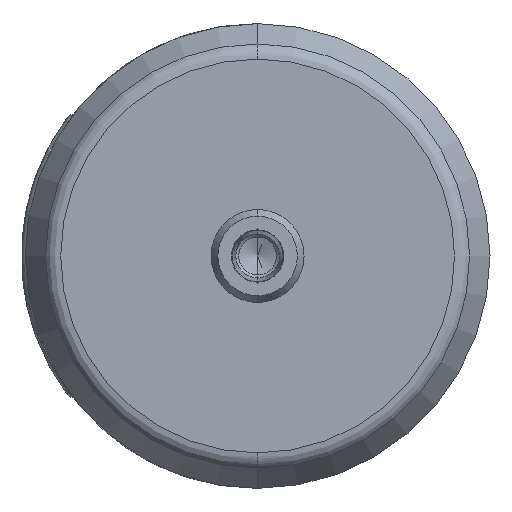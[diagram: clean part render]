
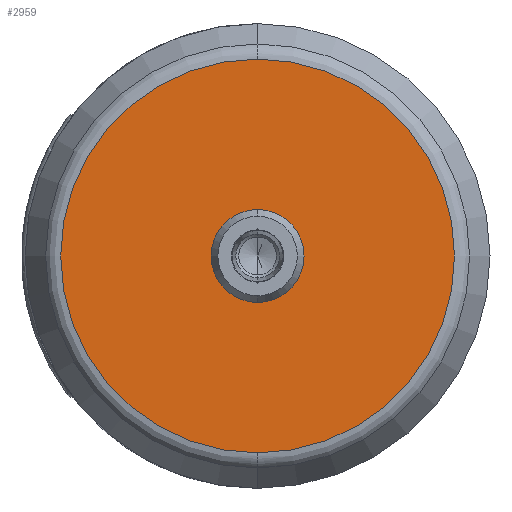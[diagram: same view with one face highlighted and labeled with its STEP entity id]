
A CAD part, front view. The second image highlights one B-rep face of the part: STEP entity #2959.
In plain terms, the highlighted planar face has unit normal (0, -1, 0).
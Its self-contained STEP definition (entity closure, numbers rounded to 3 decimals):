
#7 = VERTEX_POINT ( 'NONE', #945 ) ;
#945 = CARTESIAN_POINT ( 'NONE',  ( 0., 0., -33.892 ) ) ;
#1171 = CIRCLE ( 'NONE', #4175, 7.75 ) ;
#1381 = VERTEX_POINT ( 'NONE', #2946 ) ;
#1853 = EDGE_LOOP ( 'NONE', ( #5781, #6446 ) ) ;
#1929 = DIRECTION ( 'NONE',  ( 0., -1., 0. ) ) ;
#1990 = DIRECTION ( 'NONE',  ( 0., 0., 1. ) ) ;
#1994 = PLANE ( 'NONE',  #5055 ) ;
#2006 = AXIS2_PLACEMENT_3D ( 'NONE', #5436, #2692, #5411 ) ;
#2089 = CARTESIAN_POINT ( 'NONE',  ( 0., 0., 0. ) ) ;
#2158 = AXIS2_PLACEMENT_3D ( 'NONE', #3835, #4415, #4394 ) ;
#2477 = DIRECTION ( 'NONE',  ( 0., 1., 0. ) ) ;
#2541 = AXIS2_PLACEMENT_3D ( 'NONE', #5193, #2477, #1990 ) ;
#2561 = CIRCLE ( 'NONE', #2158, 33.892 ) ;
#2692 = DIRECTION ( 'NONE',  ( 0., 1., 0. ) ) ;
#2897 = VERTEX_POINT ( 'NONE', #5584 ) ;
#2946 = CARTESIAN_POINT ( 'NONE',  ( 0., 0., 7.75 ) ) ;
#2959 = ADVANCED_FACE ( 'NONE', ( #4108, #4612 ), #1994, .T. ) ;
#3052 = EDGE_CURVE ( 'NONE', #1381, #5129, #1171, .T. ) ;
#3263 = ORIENTED_EDGE ( 'NONE', *, *, #3594, .T. ) ;
#3594 = EDGE_CURVE ( 'NONE', #5129, #1381, #4934, .T. ) ;
#3835 = CARTESIAN_POINT ( 'NONE',  ( 0., 0., 0. ) ) ;
#4108 = FACE_BOUND ( 'NONE', #6350, .T. ) ;
#4172 = CIRCLE ( 'NONE', #2541, 33.892 ) ;
#4175 = AXIS2_PLACEMENT_3D ( 'NONE', #2089, #6380, #4791 ) ;
#4242 = EDGE_CURVE ( 'NONE', #7, #2897, #4172, .T. ) ;
#4390 = ORIENTED_EDGE ( 'NONE', *, *, #3052, .T. ) ;
#4394 = DIRECTION ( 'NONE',  ( 0., 0., 1. ) ) ;
#4415 = DIRECTION ( 'NONE',  ( 0., 1., 0. ) ) ;
#4612 = FACE_OUTER_BOUND ( 'NONE', #1853, .T. ) ;
#4791 = DIRECTION ( 'NONE',  ( 0., 0., 1. ) ) ;
#4934 = CIRCLE ( 'NONE', #2006, 7.75 ) ;
#5055 = AXIS2_PLACEMENT_3D ( 'NONE', #6254, #1929, #6282 ) ;
#5129 = VERTEX_POINT ( 'NONE', #5354 ) ;
#5173 = EDGE_CURVE ( 'NONE', #2897, #7, #2561, .T. ) ;
#5193 = CARTESIAN_POINT ( 'NONE',  ( 0., 0., 0. ) ) ;
#5354 = CARTESIAN_POINT ( 'NONE',  ( 0., 0., -7.75 ) ) ;
#5411 = DIRECTION ( 'NONE',  ( 0., 0., 1. ) ) ;
#5436 = CARTESIAN_POINT ( 'NONE',  ( 0., 0., 0. ) ) ;
#5584 = CARTESIAN_POINT ( 'NONE',  ( 0., 0., 33.892 ) ) ;
#5781 = ORIENTED_EDGE ( 'NONE', *, *, #5173, .F. ) ;
#6254 = CARTESIAN_POINT ( 'NONE',  ( 0., 0., 0. ) ) ;
#6282 = DIRECTION ( 'NONE',  ( 0., 0., -1. ) ) ;
#6350 = EDGE_LOOP ( 'NONE', ( #4390, #3263 ) ) ;
#6380 = DIRECTION ( 'NONE',  ( 0., 1., 0. ) ) ;
#6446 = ORIENTED_EDGE ( 'NONE', *, *, #4242, .F. ) ;
